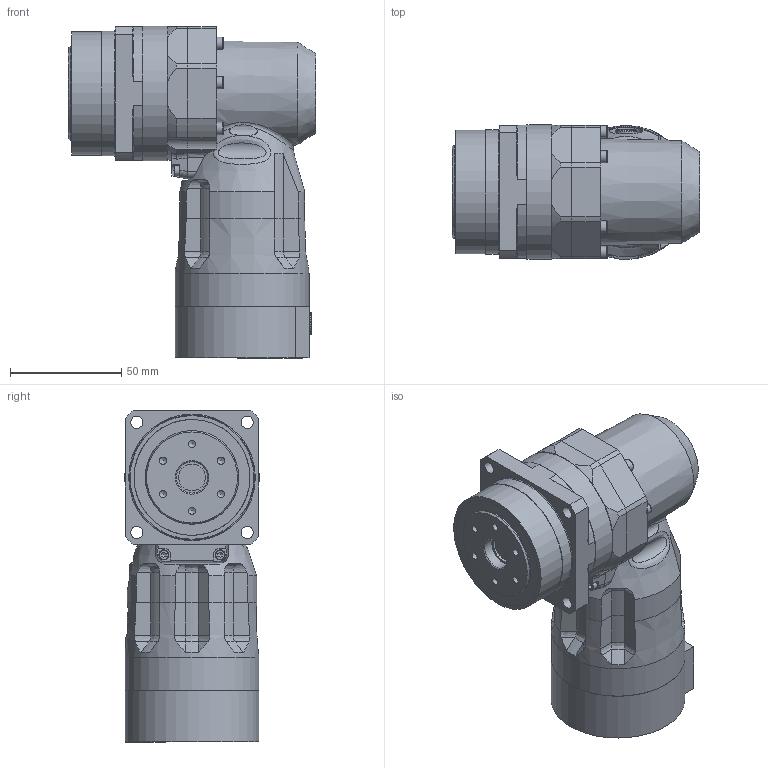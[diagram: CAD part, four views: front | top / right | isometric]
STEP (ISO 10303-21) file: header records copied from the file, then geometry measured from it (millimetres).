
FILE_DESCRIPTION(/* description */ ('ANFX-PK110F-3-2D'),/* implementation_level */ '2;1');
FILE_NAME(/* name */ 'C:\Users\ADMINI~1\AppData\Local\Temp\MM582291_ANFX-PK110F-3-2D.stp',/* time_stamp */ '2018-07-12T09:59:32+02:00',/* author */ ('Max'),/* organization */ (''),/* preprocessor_version */ 'ST-DEVELOPER v17',/* originating_system */ 'Autodesk Inventor 2018',/* authorisation */ '');
FILE_SCHEMA (('AUTOMOTIVE_DESIGN { 1 0 10303 214 3 1 1 }'));
Length unit declared in the file: millimetre
Products named in the file (24): MM581710; MMBG0004105; MMCM057LG; MMAF787LG; 202119; MMAP6494G; 009M003R010NG; M531N20357---G; 211458; 212123; 213374; MMBG0004139; MMCL239LG; MMCL240LG; MAW8353G; MAX4839G; MMBG0004116; MMAF790LG; M009M2,5R020NG; MAZ16117-5; MMAP3153G; 135352; MAW8349G; M009M004R022NG
Assembly tree (47 placements, depth 3):
  MM581710
    MMBG0004105
      MMCM057LG
      MMAF787LG
      202119
      MMAP6494G
      009M003R010NG
      M531N20357---G
      211458  x2
      212123  x8
      213374  x6
    MMBG0004139
      MMCL239LG
      MMCL240LG
      MAW8353G
      MAX4839G
    MMBG0004116
      MMAF790LG
      M009M2,5R020NG  x8
      MAZ16117-5  x2
      MMAP3153G
    135352
    MAW8349G
    M009M004R022NG  x4
Bounding box: 111 x 60.5 x 148.95 mm (x, y, z)
Volume: 297507.1 mm3; surface area: 143017.5 mm2
Topology: 113 solids, 114 shells, 1114 faces, 3148 edges, 2215 vertices
Faces by surface type: plane 486, cylinder 302, cone 132, torus 82, sphere 68, bspline 44
Full cylindrical faces by diameter (mm): 2 x1, 2.013 x10, 2.459 x15, 2.5 x10, 2.9 x18, 3 x15, 3.242 x18, 3.4 x15, 4 x4, 4.5 x14, 5.5 x27, 7 x4, 7.8 x1, 8 x5, 8.2 x1, 8.4 x1, 8.566 x2, 9.5 x1, 10 x1, 12 x2, 14 x1, 15 x2, 17.5 x1, 19 x2, 19.4 x1, 19.6 x1, 20 x2, 20.5 x1, 24 x1, 24.2 x1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
Entity records: 27865 total; most frequent: CARTESIAN_POINT 6592, DIRECTION 4511, ORIENTED_EDGE 4008, EDGE_CURVE 2004, AXIS2_PLACEMENT_3D 1916, VERTEX_POINT 1534, CIRCLE 1099, EDGE_LOOP 992
